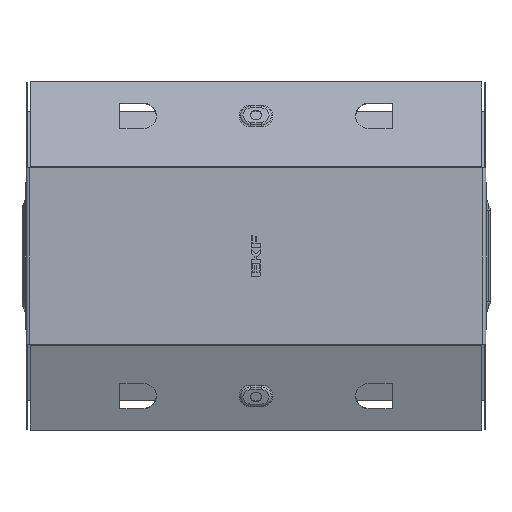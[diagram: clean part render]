
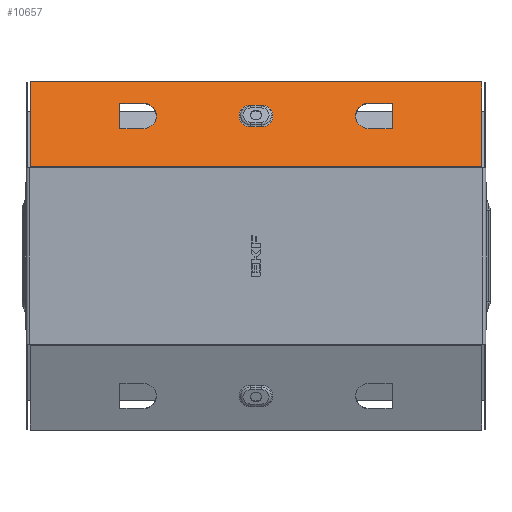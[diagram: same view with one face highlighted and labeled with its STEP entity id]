
A CAD part, front view. The second image highlights one B-rep face of the part: STEP entity #10657.
In plain terms, the highlighted planar face has unit normal (0, -0.924, 0.383).
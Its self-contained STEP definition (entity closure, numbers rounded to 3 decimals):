
#58 = DIRECTION ( 'NONE',  ( 1., 0., 0. ) ) ;
#301 = EDGE_CURVE ( 'NONE', #704, #6400, #4842, .T. ) ;
#519 = VECTOR ( 'NONE', #10519, 1000. ) ;
#660 = CIRCLE ( 'NONE', #2733, 7.598 ) ;
#694 = LINE ( 'NONE', #6338, #519 ) ;
#698 = VECTOR ( 'NONE', #2386, 1000. ) ;
#704 = VERTEX_POINT ( 'NONE', #2421 ) ;
#712 = DIRECTION ( 'NONE',  ( -1., 0., 0. ) ) ;
#782 = EDGE_CURVE ( 'NONE', #13069, #3172, #8016, .T. ) ;
#808 = ORIENTED_EDGE ( 'NONE', *, *, #5559, .T. ) ;
#1068 = ORIENTED_EDGE ( 'NONE', *, *, #2594, .T. ) ;
#1117 = CARTESIAN_POINT ( 'NONE',  ( -3.5, -36.989, 91.468 ) ) ;
#1238 = EDGE_LOOP ( 'NONE', ( #10702, #808, #3102, #8899 ) ) ;
#1281 = EDGE_CURVE ( 'NONE', #9846, #9574, #8180, .T. ) ;
#1429 = DIRECTION ( 'NONE',  ( 0., 0.383, 0.924 ) ) ;
#1503 = VECTOR ( 'NONE', #1923, 1000. ) ;
#1757 = VERTEX_POINT ( 'NONE', #4431 ) ;
#1923 = DIRECTION ( 'NONE',  ( -1., 0., 0. ) ) ;
#2153 = VECTOR ( 'NONE', #5660, 1000. ) ;
#2386 = DIRECTION ( 'NONE',  ( 1., 0., 0. ) ) ;
#2421 = CARTESIAN_POINT ( 'NONE',  ( 74., -33.545, 99.783 ) ) ;
#2594 = EDGE_CURVE ( 'NONE', #6400, #10699, #4432, .T. ) ;
#2733 = AXIS2_PLACEMENT_3D ( 'NONE', #3348, #10909, #11977 ) ;
#2772 = CARTESIAN_POINT ( 'NONE',  ( 148.2, -50.8, 58.125 ) ) ;
#2792 = CARTESIAN_POINT ( 'NONE',  ( 74., -40.433, 83.153 ) ) ;
#2823 = VECTOR ( 'NONE', #58, 1000. ) ;
#2825 = PLANE ( 'NONE',  #6319 ) ;
#2962 = ORIENTED_EDGE ( 'NONE', *, *, #11267, .T. ) ;
#3051 = CARTESIAN_POINT ( 'NONE',  ( -3.5, -39.897, 84.448 ) ) ;
#3057 = ORIENTED_EDGE ( 'NONE', *, *, #4149, .T. ) ;
#3102 = ORIENTED_EDGE ( 'NONE', *, *, #4129, .T. ) ;
#3123 = CARTESIAN_POINT ( 'NONE',  ( -3.5, -34.081, 98.488 ) ) ;
#3172 = VERTEX_POINT ( 'NONE', #11347 ) ;
#3246 = CARTESIAN_POINT ( 'NONE',  ( 3.5, -39.897, 84.448 ) ) ;
#3348 = CARTESIAN_POINT ( 'NONE',  ( 3.5, -36.989, 91.468 ) ) ;
#3501 = EDGE_LOOP ( 'NONE', ( #6542, #4435, #2962, #3057 ) ) ;
#3906 = CIRCLE ( 'NONE', #6613, 7.598 ) ;
#4129 = EDGE_CURVE ( 'NONE', #8044, #1757, #11994, .T. ) ;
#4149 = EDGE_CURVE ( 'NONE', #10954, #5878, #3906, .T. ) ;
#4250 = CARTESIAN_POINT ( 'NONE',  ( -147.299, -50.8, 58.125 ) ) ;
#4320 = ORIENTED_EDGE ( 'NONE', *, *, #782, .T. ) ;
#4348 = CARTESIAN_POINT ( 'NONE',  ( 147.299, -50.663, 58.456 ) ) ;
#4431 = CARTESIAN_POINT ( 'NONE',  ( -74., -40.433, 83.153 ) ) ;
#4432 = LINE ( 'NONE', #5904, #7301 ) ;
#4435 = ORIENTED_EDGE ( 'NONE', *, *, #12580, .T. ) ;
#4604 = DIRECTION ( 'NONE',  ( 0., 0.383, 0.924 ) ) ;
#4720 = CARTESIAN_POINT ( 'NONE',  ( -147.299, -27.805, 113.641 ) ) ;
#4757 = ORIENTED_EDGE ( 'NONE', *, *, #10501, .T. ) ;
#4842 = LINE ( 'NONE', #8830, #2823 ) ;
#4865 = FACE_BOUND ( 'NONE', #3501, .T. ) ;
#5002 = EDGE_CURVE ( 'NONE', #10998, #13961, #10922, .T. ) ;
#5036 = CARTESIAN_POINT ( 'NONE',  ( 89., -33.545, 99.783 ) ) ;
#5207 = CARTESIAN_POINT ( 'NONE',  ( 74., -36.989, 91.468 ) ) ;
#5254 = LINE ( 'NONE', #2792, #10290 ) ;
#5286 = CARTESIAN_POINT ( 'NONE',  ( -147.299, -50.663, 58.456 ) ) ;
#5332 = CARTESIAN_POINT ( 'NONE',  ( -74., -33.545, 99.783 ) ) ;
#5559 = EDGE_CURVE ( 'NONE', #13961, #8044, #12294, .T. ) ;
#5660 = DIRECTION ( 'NONE',  ( 0., 0.383, 0.924 ) ) ;
#5840 = EDGE_CURVE ( 'NONE', #3172, #9846, #11235, .T. ) ;
#5878 = VERTEX_POINT ( 'NONE', #3123 ) ;
#5904 = CARTESIAN_POINT ( 'NONE',  ( 89., -33.545, 99.783 ) ) ;
#6319 = AXIS2_PLACEMENT_3D ( 'NONE', #2772, #10243, #10288 ) ;
#6338 = CARTESIAN_POINT ( 'NONE',  ( 148.2, -50.663, 58.456 ) ) ;
#6400 = VERTEX_POINT ( 'NONE', #5036 ) ;
#6471 = ORIENTED_EDGE ( 'NONE', *, *, #301, .T. ) ;
#6542 = ORIENTED_EDGE ( 'NONE', *, *, #12360, .T. ) ;
#6613 = AXIS2_PLACEMENT_3D ( 'NONE', #1117, #10632, #11833 ) ;
#6830 = CARTESIAN_POINT ( 'NONE',  ( -89., -33.545, 99.783 ) ) ;
#7031 = VECTOR ( 'NONE', #9480, 1000. ) ;
#7073 = ORIENTED_EDGE ( 'NONE', *, *, #8818, .T. ) ;
#7301 = VECTOR ( 'NONE', #11131, 1000. ) ;
#7424 = CARTESIAN_POINT ( 'NONE',  ( 148.2, -27.805, 113.641 ) ) ;
#7547 = CARTESIAN_POINT ( 'NONE',  ( -74., -36.989, 91.468 ) ) ;
#8016 = LINE ( 'NONE', #13299, #2153 ) ;
#8044 = VERTEX_POINT ( 'NONE', #5332 ) ;
#8180 = LINE ( 'NONE', #4250, #11902 ) ;
#8434 = EDGE_CURVE ( 'NONE', #1757, #10998, #11163, .T. ) ;
#8742 = FACE_OUTER_BOUND ( 'NONE', #12366, .T. ) ;
#8745 = DIRECTION ( 'NONE',  ( -1., 0., 0. ) ) ;
#8818 = EDGE_CURVE ( 'NONE', #10699, #9592, #5254, .T. ) ;
#8828 = CARTESIAN_POINT ( 'NONE',  ( -74., -33.545, 99.783 ) ) ;
#8830 = CARTESIAN_POINT ( 'NONE',  ( 74., -33.545, 99.783 ) ) ;
#8879 = LINE ( 'NONE', #9384, #7031 ) ;
#8899 = ORIENTED_EDGE ( 'NONE', *, *, #8434, .T. ) ;
#9297 = AXIS2_PLACEMENT_3D ( 'NONE', #5207, #13874, #1429 ) ;
#9384 = CARTESIAN_POINT ( 'NONE',  ( 3.5, -34.081, 98.488 ) ) ;
#9480 = DIRECTION ( 'NONE',  ( 1., 0., 0. ) ) ;
#9574 = VERTEX_POINT ( 'NONE', #5286 ) ;
#9589 = FACE_BOUND ( 'NONE', #1238, .T. ) ;
#9592 = VERTEX_POINT ( 'NONE', #9626 ) ;
#9596 = CARTESIAN_POINT ( 'NONE',  ( 3.5, -39.897, 84.448 ) ) ;
#9626 = CARTESIAN_POINT ( 'NONE',  ( 74., -40.433, 83.153 ) ) ;
#9787 = EDGE_LOOP ( 'NONE', ( #7073, #4757, #6471, #1068 ) ) ;
#9846 = VERTEX_POINT ( 'NONE', #4720 ) ;
#10060 = ORIENTED_EDGE ( 'NONE', *, *, #5840, .T. ) ;
#10080 = CIRCLE ( 'NONE', #9297, 9. ) ;
#10239 = FACE_BOUND ( 'NONE', #9787, .T. ) ;
#10243 = DIRECTION ( 'NONE',  ( 0., 0.924, -0.383 ) ) ;
#10288 = DIRECTION ( 'NONE',  ( 0., 0.383, 0.924 ) ) ;
#10290 = VECTOR ( 'NONE', #712, 1000. ) ;
#10501 = EDGE_CURVE ( 'NONE', #9592, #704, #10080, .T. ) ;
#10519 = DIRECTION ( 'NONE',  ( -1., 0., 0. ) ) ;
#10632 = DIRECTION ( 'NONE',  ( 0., 0.924, -0.383 ) ) ;
#10657 = ADVANCED_FACE ( 'NONE', ( #10239, #9589, #4865, #8742 ), #2825, .F. ) ;
#10659 = CARTESIAN_POINT ( 'NONE',  ( -74., -40.433, 83.153 ) ) ;
#10699 = VERTEX_POINT ( 'NONE', #12488 ) ;
#10702 = ORIENTED_EDGE ( 'NONE', *, *, #5002, .T. ) ;
#10712 = VERTEX_POINT ( 'NONE', #11679 ) ;
#10909 = DIRECTION ( 'NONE',  ( 0., 0.924, -0.383 ) ) ;
#10922 = LINE ( 'NONE', #6830, #12468 ) ;
#10954 = VERTEX_POINT ( 'NONE', #3051 ) ;
#10998 = VERTEX_POINT ( 'NONE', #13369 ) ;
#11131 = DIRECTION ( 'NONE',  ( 0., -0.383, -0.924 ) ) ;
#11163 = LINE ( 'NONE', #10659, #12022 ) ;
#11235 = LINE ( 'NONE', #7424, #1503 ) ;
#11267 = EDGE_CURVE ( 'NONE', #13538, #10954, #13472, .T. ) ;
#11347 = CARTESIAN_POINT ( 'NONE',  ( 147.299, -27.805, 113.641 ) ) ;
#11351 = EDGE_CURVE ( 'NONE', #13069, #9574, #694, .T. ) ;
#11509 = CARTESIAN_POINT ( 'NONE',  ( -89., -33.545, 99.783 ) ) ;
#11679 = CARTESIAN_POINT ( 'NONE',  ( 3.5, -34.081, 98.488 ) ) ;
#11833 = DIRECTION ( 'NONE',  ( 0., 0.383, 0.924 ) ) ;
#11902 = VECTOR ( 'NONE', #12832, 1000. ) ;
#11962 = VECTOR ( 'NONE', #8745, 1000. ) ;
#11977 = DIRECTION ( 'NONE',  ( 0., 0.383, 0.924 ) ) ;
#11994 = CIRCLE ( 'NONE', #13575, 9. ) ;
#12022 = VECTOR ( 'NONE', #12808, 1000. ) ;
#12294 = LINE ( 'NONE', #8828, #698 ) ;
#12360 = EDGE_CURVE ( 'NONE', #5878, #10712, #8879, .T. ) ;
#12366 = EDGE_LOOP ( 'NONE', ( #12814, #13831, #4320, #10060 ) ) ;
#12468 = VECTOR ( 'NONE', #4604, 1000. ) ;
#12488 = CARTESIAN_POINT ( 'NONE',  ( 89., -40.433, 83.153 ) ) ;
#12580 = EDGE_CURVE ( 'NONE', #10712, #13538, #660, .T. ) ;
#12808 = DIRECTION ( 'NONE',  ( -1., 0., 0. ) ) ;
#12814 = ORIENTED_EDGE ( 'NONE', *, *, #1281, .T. ) ;
#12832 = DIRECTION ( 'NONE',  ( 0., -0.383, -0.924 ) ) ;
#13069 = VERTEX_POINT ( 'NONE', #4348 ) ;
#13299 = CARTESIAN_POINT ( 'NONE',  ( 147.299, -50.864, 57.971 ) ) ;
#13369 = CARTESIAN_POINT ( 'NONE',  ( -89., -40.433, 83.153 ) ) ;
#13472 = LINE ( 'NONE', #3246, #11962 ) ;
#13538 = VERTEX_POINT ( 'NONE', #9596 ) ;
#13575 = AXIS2_PLACEMENT_3D ( 'NONE', #7547, #13866, #13965 ) ;
#13831 = ORIENTED_EDGE ( 'NONE', *, *, #11351, .F. ) ;
#13866 = DIRECTION ( 'NONE',  ( 0., 0.924, -0.383 ) ) ;
#13874 = DIRECTION ( 'NONE',  ( 0., 0.924, -0.383 ) ) ;
#13961 = VERTEX_POINT ( 'NONE', #11509 ) ;
#13965 = DIRECTION ( 'NONE',  ( 0., -0.383, -0.924 ) ) ;
